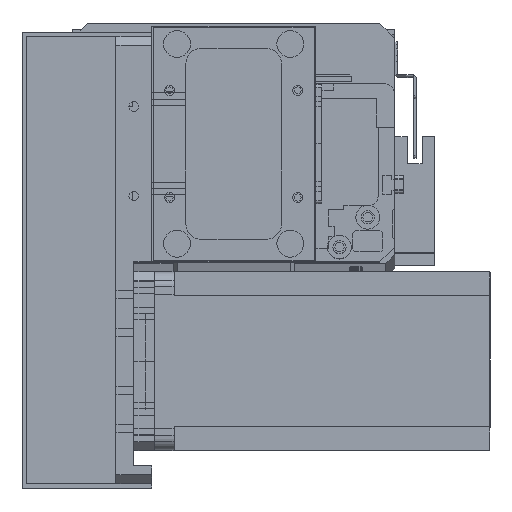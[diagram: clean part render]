
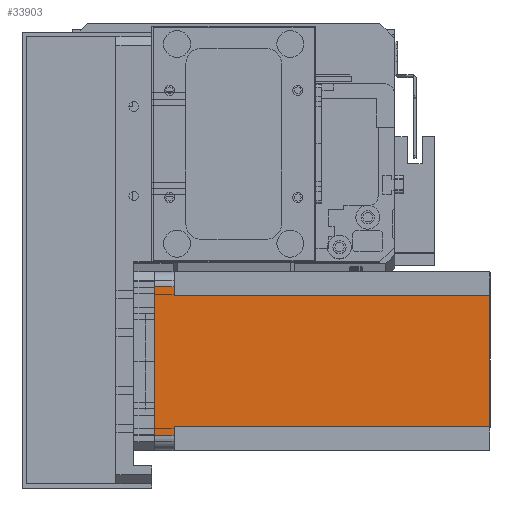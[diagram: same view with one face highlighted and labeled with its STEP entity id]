
A CAD part, top view. The second image highlights one B-rep face of the part: STEP entity #33903.
In plain terms, the highlighted planar face has unit normal (0, 0, 1) as drawn and (0, 1, 0) by its records, which use the part's own axes.
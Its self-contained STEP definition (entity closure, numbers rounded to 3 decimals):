
#37 = CARTESIAN_POINT ( 'NONE',  ( 5., 60., 0. ) ) ;
#126 = CARTESIAN_POINT ( 'NONE',  ( 8., 60., -6.5 ) ) ;
#730 = LINE ( 'NONE', #18592, #6116 ) ;
#814 = EDGE_LOOP ( 'NONE', ( #30843, #29962, #22285, #11623, #31257, #9157, #16675, #26046 ) ) ;
#868 = VECTOR ( 'NONE', #24812, 1000. ) ;
#1668 = CARTESIAN_POINT ( 'NONE',  ( 8., 60., -6.5 ) ) ;
#3030 = VERTEX_POINT ( 'NONE', #12284 ) ;
#3034 = VECTOR ( 'NONE', #21983, 1000. ) ;
#4961 = EDGE_CURVE ( 'NONE', #32983, #26704, #6080, .T. ) ;
#5425 = LINE ( 'NONE', #22260, #868 ) ;
#5472 = DIRECTION ( 'NONE',  ( 0., 0., -1. ) ) ;
#6080 = LINE ( 'NONE', #24061, #26463 ) ;
#6116 = VECTOR ( 'NONE', #29270, 1000. ) ;
#8198 = CARTESIAN_POINT ( 'NONE',  ( 8., 60., -112.5 ) ) ;
#8758 = VECTOR ( 'NONE', #13891, 1000. ) ;
#9157 = ORIENTED_EDGE ( 'NONE', *, *, #25628, .F. ) ;
#9236 = EDGE_CURVE ( 'NONE', #29531, #26704, #5425, .T. ) ;
#9848 = CARTESIAN_POINT ( 'NONE',  ( 55., 60., -6.5 ) ) ;
#9870 = DIRECTION ( 'NONE',  ( 0., 0., -1. ) ) ;
#9882 = VERTEX_POINT ( 'NONE', #18783 ) ;
#10724 = VECTOR ( 'NONE', #13366, 1000. ) ;
#10869 = LINE ( 'NONE', #31154, #31298 ) ;
#11623 = ORIENTED_EDGE ( 'NONE', *, *, #11723, .F. ) ;
#11723 = EDGE_CURVE ( 'NONE', #3030, #29531, #25085, .T. ) ;
#12284 = CARTESIAN_POINT ( 'NONE',  ( 52., 60., -112.5 ) ) ;
#13366 = DIRECTION ( 'NONE',  ( -1., 0., 0. ) ) ;
#13511 = EDGE_CURVE ( 'NONE', #32983, #30756, #16666, .T. ) ;
#13891 = DIRECTION ( 'NONE',  ( -1., 0., 0. ) ) ;
#14332 = DIRECTION ( 'NONE',  ( 0., 1., 0. ) ) ;
#16666 = LINE ( 'NONE', #19112, #8758 ) ;
#16675 = ORIENTED_EDGE ( 'NONE', *, *, #26330, .T. ) ;
#16893 = PLANE ( 'NONE',  #22084 ) ;
#17791 = CARTESIAN_POINT ( 'NONE',  ( 8., 60., -112.5 ) ) ;
#17804 = EDGE_CURVE ( 'NONE', #3030, #23583, #730, .T. ) ;
#17814 = LINE ( 'NONE', #126, #10724 ) ;
#18592 = CARTESIAN_POINT ( 'NONE',  ( 0., 60., -112.5 ) ) ;
#18783 = CARTESIAN_POINT ( 'NONE',  ( 5., 60., -6.5 ) ) ;
#19112 = CARTESIAN_POINT ( 'NONE',  ( 0., 60., 0. ) ) ;
#21983 = DIRECTION ( 'NONE',  ( 0., 0., 1. ) ) ;
#22084 = AXIS2_PLACEMENT_3D ( 'NONE', #24891, #14332, #32977 ) ;
#22260 = CARTESIAN_POINT ( 'NONE',  ( 52., 60., -6.5 ) ) ;
#22285 = ORIENTED_EDGE ( 'NONE', *, *, #9236, .F. ) ;
#22635 = CARTESIAN_POINT ( 'NONE',  ( 55., 60., 0. ) ) ;
#22836 = VECTOR ( 'NONE', #9870, 1000. ) ;
#23583 = VERTEX_POINT ( 'NONE', #8198 ) ;
#24054 = CARTESIAN_POINT ( 'NONE',  ( 52., 60., -6.5 ) ) ;
#24061 = CARTESIAN_POINT ( 'NONE',  ( 55., 60., -112.5 ) ) ;
#24812 = DIRECTION ( 'NONE',  ( 1., 0., 0. ) ) ;
#24891 = CARTESIAN_POINT ( 'NONE',  ( 0., 60., -112.5 ) ) ;
#24966 = VERTEX_POINT ( 'NONE', #1668 ) ;
#25085 = LINE ( 'NONE', #32606, #3034 ) ;
#25628 = EDGE_CURVE ( 'NONE', #24966, #23583, #29888, .T. ) ;
#26046 = ORIENTED_EDGE ( 'NONE', *, *, #28668, .T. ) ;
#26330 = EDGE_CURVE ( 'NONE', #24966, #9882, #17814, .T. ) ;
#26463 = VECTOR ( 'NONE', #5472, 1000. ) ;
#26704 = VERTEX_POINT ( 'NONE', #9848 ) ;
#28668 = EDGE_CURVE ( 'NONE', #9882, #30756, #10869, .T. ) ;
#29257 = FACE_OUTER_BOUND ( 'NONE', #814, .T. ) ;
#29270 = DIRECTION ( 'NONE',  ( -1., 0., 0. ) ) ;
#29531 = VERTEX_POINT ( 'NONE', #24054 ) ;
#29888 = LINE ( 'NONE', #17791, #22836 ) ;
#29962 = ORIENTED_EDGE ( 'NONE', *, *, #4961, .T. ) ;
#30756 = VERTEX_POINT ( 'NONE', #37 ) ;
#30843 = ORIENTED_EDGE ( 'NONE', *, *, #13511, .F. ) ;
#31154 = CARTESIAN_POINT ( 'NONE',  ( 5., 60., -112.5 ) ) ;
#31257 = ORIENTED_EDGE ( 'NONE', *, *, #17804, .T. ) ;
#31298 = VECTOR ( 'NONE', #33834, 1000. ) ;
#32606 = CARTESIAN_POINT ( 'NONE',  ( 52., 60., -112.5 ) ) ;
#32977 = DIRECTION ( 'NONE',  ( 0., 0., 1. ) ) ;
#32983 = VERTEX_POINT ( 'NONE', #22635 ) ;
#33834 = DIRECTION ( 'NONE',  ( 0., 0., 1. ) ) ;
#33903 = ADVANCED_FACE ( 'NONE', ( #29257 ), #16893, .T. ) ;
